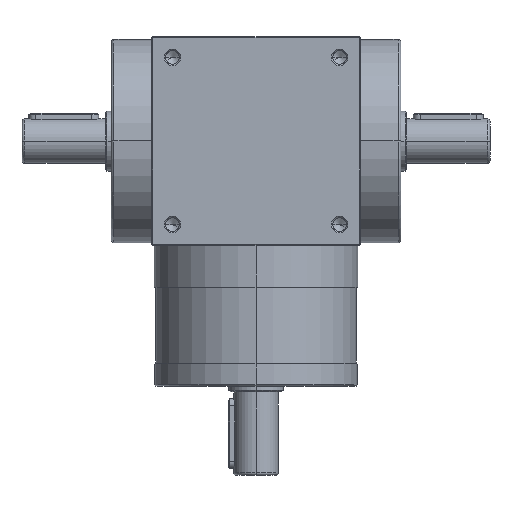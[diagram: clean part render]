
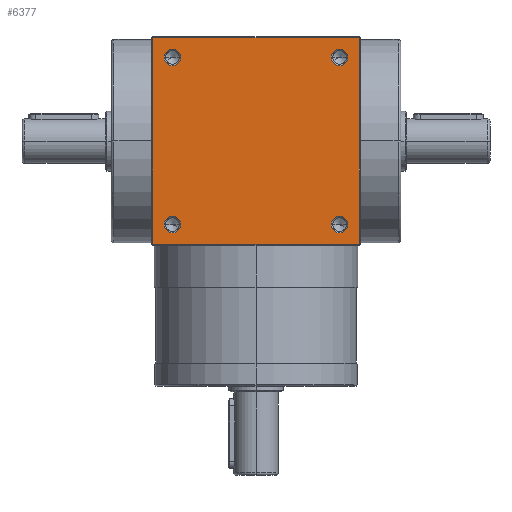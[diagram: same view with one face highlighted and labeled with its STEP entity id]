
A CAD part, top view. The second image highlights one B-rep face of the part: STEP entity #6377.
In plain terms, the highlighted planar face has unit normal (0, 0, 1).
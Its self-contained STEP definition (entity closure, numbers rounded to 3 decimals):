
#214 = DIRECTION ( 'NONE',  ( 0., 1., 0. ) ) ;
#317 = CARTESIAN_POINT ( 'NONE',  ( -33., 30., 37.5 ) ) ;
#412 = DIRECTION ( 'NONE',  ( 0., 0., -1. ) ) ;
#426 = CARTESIAN_POINT ( 'NONE',  ( 30., 30., 37.5 ) ) ;
#495 = CARTESIAN_POINT ( 'NONE',  ( 37., 37., 37.5 ) ) ;
#567 = EDGE_CURVE ( 'NONE', #9046, #2017, #2596, .T. ) ;
#620 = AXIS2_PLACEMENT_3D ( 'NONE', #8163, #9187, #4348 ) ;
#791 = ORIENTED_EDGE ( 'NONE', *, *, #8321, .T. ) ;
#816 = EDGE_LOOP ( 'NONE', ( #5327, #791 ) ) ;
#864 = EDGE_CURVE ( 'NONE', #3262, #2077, #5764, .T. ) ;
#1037 = DIRECTION ( 'NONE',  ( 0., 0., -1. ) ) ;
#1108 = DIRECTION ( 'NONE',  ( -1., 0., 0. ) ) ;
#1200 = CARTESIAN_POINT ( 'NONE',  ( 30., -30., 37.5 ) ) ;
#1243 = FACE_BOUND ( 'NONE', #3358, .T. ) ;
#1264 = EDGE_CURVE ( 'NONE', #1441, #8379, #8940, .T. ) ;
#1381 = AXIS2_PLACEMENT_3D ( 'NONE', #6053, #412, #6913 ) ;
#1441 = VERTEX_POINT ( 'NONE', #9641 ) ;
#1669 = ORIENTED_EDGE ( 'NONE', *, *, #8242, .T. ) ;
#1747 = DIRECTION ( 'NONE',  ( -1., 0., 0. ) ) ;
#1767 = CARTESIAN_POINT ( 'NONE',  ( 37., 0., 37.5 ) ) ;
#1933 = EDGE_LOOP ( 'NONE', ( #1669, #10045 ) ) ;
#2017 = VERTEX_POINT ( 'NONE', #6567 ) ;
#2051 = ORIENTED_EDGE ( 'NONE', *, *, #864, .T. ) ;
#2077 = VERTEX_POINT ( 'NONE', #2715 ) ;
#2553 = ORIENTED_EDGE ( 'NONE', *, *, #4288, .T. ) ;
#2596 = CIRCLE ( 'NONE', #3719, 3. ) ;
#2715 = CARTESIAN_POINT ( 'NONE',  ( 27., 30., 37.5 ) ) ;
#2773 = CARTESIAN_POINT ( 'NONE',  ( 27., -30., 37.5 ) ) ;
#2846 = VECTOR ( 'NONE', #10048, 1000. ) ;
#2985 = CARTESIAN_POINT ( 'NONE',  ( -30., 30., 37.5 ) ) ;
#3006 = CARTESIAN_POINT ( 'NONE',  ( 30., 30., 37.5 ) ) ;
#3160 = VERTEX_POINT ( 'NONE', #317 ) ;
#3262 = VERTEX_POINT ( 'NONE', #8693 ) ;
#3358 = EDGE_LOOP ( 'NONE', ( #3841, #8370 ) ) ;
#3548 = EDGE_CURVE ( 'NONE', #10468, #5479, #9107, .T. ) ;
#3571 = ORIENTED_EDGE ( 'NONE', *, *, #3548, .T. ) ;
#3719 = AXIS2_PLACEMENT_3D ( 'NONE', #9777, #1037, #1747 ) ;
#3818 = DIRECTION ( 'NONE',  ( -1., 0., 0. ) ) ;
#3841 = ORIENTED_EDGE ( 'NONE', *, *, #4030, .T. ) ;
#3896 = FACE_BOUND ( 'NONE', #7915, .T. ) ;
#4030 = EDGE_CURVE ( 'NONE', #9011, #3160, #7888, .T. ) ;
#4073 = AXIS2_PLACEMENT_3D ( 'NONE', #1200, #5242, #9392 ) ;
#4213 = AXIS2_PLACEMENT_3D ( 'NONE', #2985, #10335, #3818 ) ;
#4288 = EDGE_CURVE ( 'NONE', #5479, #1441, #5078, .T. ) ;
#4348 = DIRECTION ( 'NONE',  ( -1., 0., 0. ) ) ;
#4390 = FACE_BOUND ( 'NONE', #1933, .T. ) ;
#4644 = FACE_BOUND ( 'NONE', #816, .T. ) ;
#4776 = CIRCLE ( 'NONE', #4073, 3. ) ;
#4797 = AXIS2_PLACEMENT_3D ( 'NONE', #3006, #7922, #8698 ) ;
#4803 = VERTEX_POINT ( 'NONE', #9211 ) ;
#4846 = CIRCLE ( 'NONE', #7109, 3. ) ;
#4997 = CARTESIAN_POINT ( 'NONE',  ( 0., 37., 37.5 ) ) ;
#5058 = DIRECTION ( 'NONE',  ( -1., 0., 0. ) ) ;
#5078 = LINE ( 'NONE', #7633, #9256 ) ;
#5081 = CARTESIAN_POINT ( 'NONE',  ( -27., 30., 37.5 ) ) ;
#5242 = DIRECTION ( 'NONE',  ( 0., 0., -1. ) ) ;
#5327 = ORIENTED_EDGE ( 'NONE', *, *, #8926, .T. ) ;
#5380 = CARTESIAN_POINT ( 'NONE',  ( -30., 30., 37.5 ) ) ;
#5398 = DIRECTION ( 'NONE',  ( 0., -1., 0. ) ) ;
#5473 = EDGE_CURVE ( 'NONE', #3160, #9011, #10011, .T. ) ;
#5479 = VERTEX_POINT ( 'NONE', #7796 ) ;
#5550 = CARTESIAN_POINT ( 'NONE',  ( 37., -37., 37.5 ) ) ;
#5709 = PLANE ( 'NONE',  #620 ) ;
#5764 = CIRCLE ( 'NONE', #4797, 3. ) ;
#6013 = DIRECTION ( 'NONE',  ( -1., 0., 0. ) ) ;
#6053 = CARTESIAN_POINT ( 'NONE',  ( -30., -30., 37.5 ) ) ;
#6061 = DIRECTION ( 'NONE',  ( 0., 0., -1. ) ) ;
#6377 = ADVANCED_FACE ( 'NONE', ( #4390, #4644, #3896, #1243, #7303 ), #5709, .F. ) ;
#6419 = CIRCLE ( 'NONE', #1381, 3. ) ;
#6567 = CARTESIAN_POINT ( 'NONE',  ( 33., -30., 37.5 ) ) ;
#6891 = DIRECTION ( 'NONE',  ( -1., 0., 0. ) ) ;
#6913 = DIRECTION ( 'NONE',  ( -1., 0., 0. ) ) ;
#7109 = AXIS2_PLACEMENT_3D ( 'NONE', #426, #6061, #6891 ) ;
#7186 = CIRCLE ( 'NONE', #7268, 3. ) ;
#7268 = AXIS2_PLACEMENT_3D ( 'NONE', #8232, #7460, #1108 ) ;
#7303 = FACE_OUTER_BOUND ( 'NONE', #8780, .T. ) ;
#7460 = DIRECTION ( 'NONE',  ( 0., 0., -1. ) ) ;
#7633 = CARTESIAN_POINT ( 'NONE',  ( -37., 0., 37.5 ) ) ;
#7763 = AXIS2_PLACEMENT_3D ( 'NONE', #5380, #10083, #6013 ) ;
#7796 = CARTESIAN_POINT ( 'NONE',  ( -37., 37., 37.5 ) ) ;
#7888 = CIRCLE ( 'NONE', #4213, 3. ) ;
#7915 = EDGE_LOOP ( 'NONE', ( #2051, #9810 ) ) ;
#7922 = DIRECTION ( 'NONE',  ( 0., 0., -1. ) ) ;
#8101 = CARTESIAN_POINT ( 'NONE',  ( -33., -30., 37.5 ) ) ;
#8163 = CARTESIAN_POINT ( 'NONE',  ( 0., 0., 37.5 ) ) ;
#8232 = CARTESIAN_POINT ( 'NONE',  ( -30., -30., 37.5 ) ) ;
#8242 = EDGE_CURVE ( 'NONE', #2017, #9046, #4776, .T. ) ;
#8321 = EDGE_CURVE ( 'NONE', #9907, #4803, #6419, .T. ) ;
#8370 = ORIENTED_EDGE ( 'NONE', *, *, #5473, .T. ) ;
#8379 = VERTEX_POINT ( 'NONE', #5550 ) ;
#8693 = CARTESIAN_POINT ( 'NONE',  ( 33., 30., 37.5 ) ) ;
#8698 = DIRECTION ( 'NONE',  ( -1., 0., 0. ) ) ;
#8709 = ORIENTED_EDGE ( 'NONE', *, *, #1264, .T. ) ;
#8780 = EDGE_LOOP ( 'NONE', ( #2553, #8709, #9305, #3571 ) ) ;
#8926 = EDGE_CURVE ( 'NONE', #4803, #9907, #7186, .T. ) ;
#8940 = LINE ( 'NONE', #9285, #2846 ) ;
#9006 = EDGE_CURVE ( 'NONE', #8379, #10468, #10250, .T. ) ;
#9011 = VERTEX_POINT ( 'NONE', #5081 ) ;
#9046 = VERTEX_POINT ( 'NONE', #2773 ) ;
#9107 = LINE ( 'NONE', #4997, #9630 ) ;
#9187 = DIRECTION ( 'NONE',  ( 0., 0., -1. ) ) ;
#9211 = CARTESIAN_POINT ( 'NONE',  ( -27., -30., 37.5 ) ) ;
#9256 = VECTOR ( 'NONE', #5398, 1000. ) ;
#9285 = CARTESIAN_POINT ( 'NONE',  ( 0., -37., 37.5 ) ) ;
#9305 = ORIENTED_EDGE ( 'NONE', *, *, #9006, .T. ) ;
#9392 = DIRECTION ( 'NONE',  ( -1., 0., 0. ) ) ;
#9630 = VECTOR ( 'NONE', #5058, 1000. ) ;
#9641 = CARTESIAN_POINT ( 'NONE',  ( -37., -37., 37.5 ) ) ;
#9777 = CARTESIAN_POINT ( 'NONE',  ( 30., -30., 37.5 ) ) ;
#9810 = ORIENTED_EDGE ( 'NONE', *, *, #10491, .T. ) ;
#9907 = VERTEX_POINT ( 'NONE', #8101 ) ;
#10011 = CIRCLE ( 'NONE', #7763, 3. ) ;
#10045 = ORIENTED_EDGE ( 'NONE', *, *, #567, .T. ) ;
#10048 = DIRECTION ( 'NONE',  ( 1., 0., 0. ) ) ;
#10083 = DIRECTION ( 'NONE',  ( 0., 0., -1. ) ) ;
#10250 = LINE ( 'NONE', #1767, #10506 ) ;
#10335 = DIRECTION ( 'NONE',  ( 0., 0., -1. ) ) ;
#10468 = VERTEX_POINT ( 'NONE', #495 ) ;
#10491 = EDGE_CURVE ( 'NONE', #2077, #3262, #4846, .T. ) ;
#10506 = VECTOR ( 'NONE', #214, 1000. ) ;
